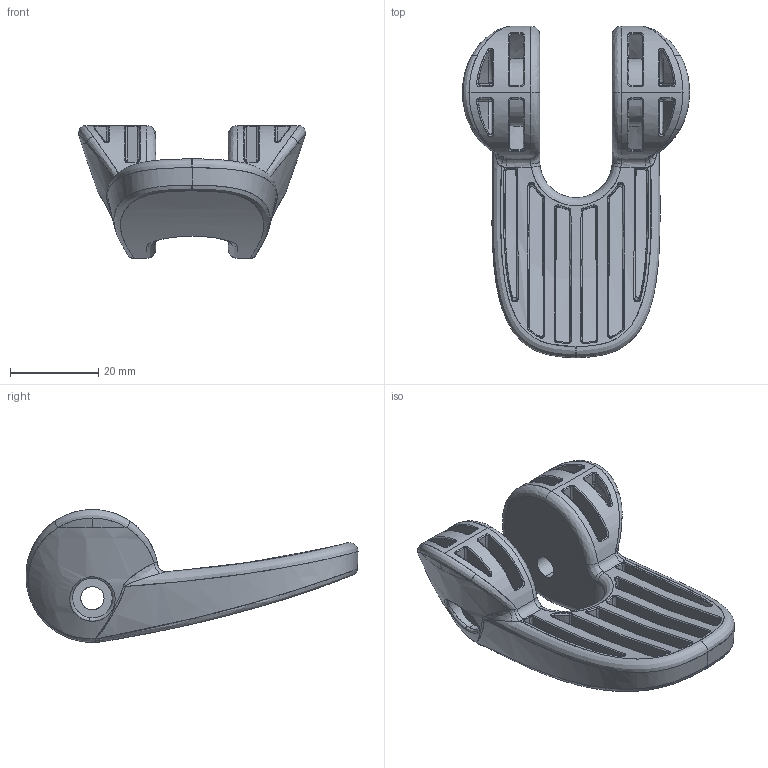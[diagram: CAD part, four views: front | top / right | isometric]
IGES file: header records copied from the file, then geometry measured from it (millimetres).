
Start section: SolidWorks IGES file using analytic representation for surfaces
Global section: file name: R:\DESIGN STORE\PRODUCTS\INDOOR AIRING\C0249 Bed Bath & Beyond X-Wing\stage 1\solidworks\C2\C0249 Iges 091013\C0249_104_C2_cam_A.IGS; native system: SolidWorks 2013; preprocessor: SolidWorks 2013; author: howardm; date: 131009.161335; units: millimetre
Bounding box: 51.34 x 75.05 x 30.02 mm (x, y, z)
Surface area: 13869.6 mm2 (no closed solid volume)
Topology: 0 solids, 0 shells, 355 faces, 3653 edges, 3620 vertices
Faces by surface type: bspline 256, revolution 99
